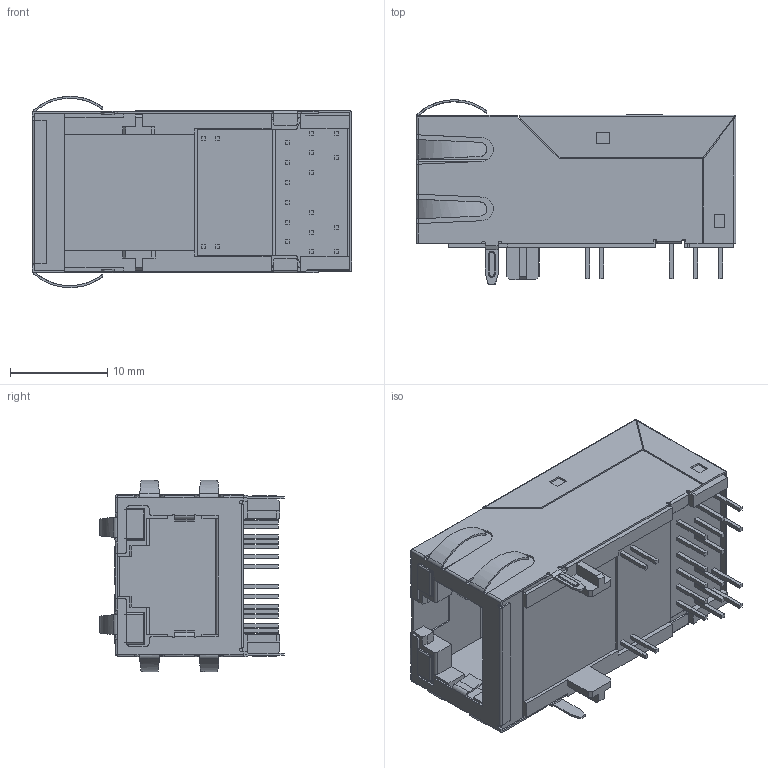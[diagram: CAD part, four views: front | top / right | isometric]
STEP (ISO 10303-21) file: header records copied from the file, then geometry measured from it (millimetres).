
FILE_DESCRIPTION (( 'STEP AP214' ), '1' );
FILE_NAME ('JK0-0229NL_060523.STEP', '2023-06-05T01:11:58', ( '' ), ( '' ), 'SwSTEP 2.0', 'SolidWorks 2022', '' );
FILE_SCHEMA (( 'AUTOMOTIVE_DESIGN' ));
Length unit declared in the file: inch
Products named in the file (1): JK0-0229NL_060523
Bounding box: 32.78 x 18.92 x 19.63 mm (x, y, z)
Volume: 3611.3 mm3; surface area: 6829.7 mm2
Topology: 3 solids, 3 shells, 762 faces, 2160 edges, 1399 vertices
Faces by surface type: plane 583, cylinder 125, bspline 54
Entity records: 27281 total; most frequent: CARTESIAN_POINT 7787, ORIENTED_EDGE 4304, DIRECTION 3627, EDGE_CURVE 2152, LINE 1775, VECTOR 1775, VERTEX_POINT 1399, AXIS2_PLACEMENT_3D 926
